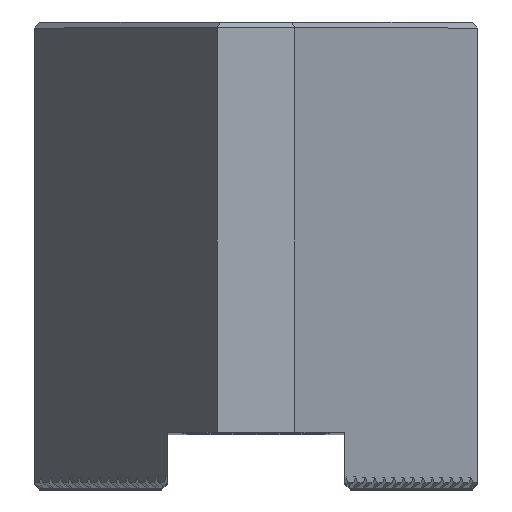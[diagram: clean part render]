
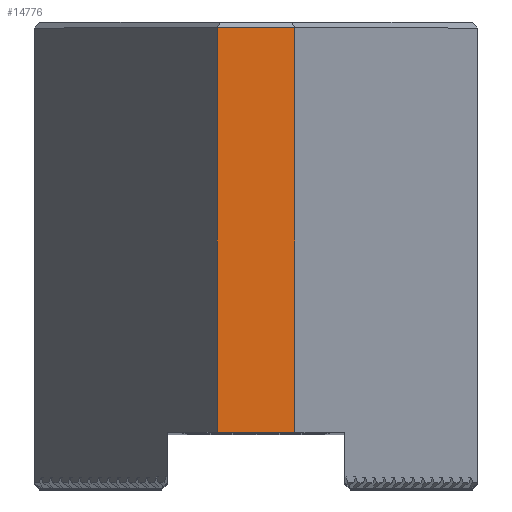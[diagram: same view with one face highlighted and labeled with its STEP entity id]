
A CAD part, top view. The second image highlights one B-rep face of the part: STEP entity #14776.
In plain terms, the highlighted planar face has unit normal (0, 0, 1).
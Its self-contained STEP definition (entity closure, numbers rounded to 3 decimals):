
#722=PLANE('',#15517);
#1430=FACE_OUTER_BOUND('',#2142,.T.);
#2142=EDGE_LOOP('',(#13990,#13991,#13992,#13993));
#2421=LINE('',#19624,#4515);
#4230=LINE('',#23239,#6324);
#4243=LINE('',#23265,#6337);
#4244=LINE('',#23266,#6338);
#4515=VECTOR('',#15832,10.);
#6324=VECTOR('',#19005,10.);
#6337=VECTOR('',#19040,10.);
#6338=VECTOR('',#19041,10.);
#6623=VERTEX_POINT('',#19621);
#6624=VERTEX_POINT('',#19623);
#7748=VERTEX_POINT('',#23237);
#7750=VERTEX_POINT('',#23264);
#8029=EDGE_CURVE('',#6624,#6623,#2421,.T.);
#9838=EDGE_CURVE('',#7748,#6623,#4230,.T.);
#9851=EDGE_CURVE('',#7750,#7748,#4243,.T.);
#9852=EDGE_CURVE('',#7750,#6624,#4244,.T.);
#13990=ORIENTED_EDGE('',*,*,#9838,.F.);
#13991=ORIENTED_EDGE('',*,*,#9851,.F.);
#13992=ORIENTED_EDGE('',*,*,#9852,.T.);
#13993=ORIENTED_EDGE('',*,*,#8029,.T.);
#14776=ADVANCED_FACE('',(#1430),#722,.T.);
#15517=AXIS2_PLACEMENT_3D('',#23263,#19038,#19039);
#15832=DIRECTION('',(0.,1.,0.));
#19005=DIRECTION('',(1.,0.,0.));
#19038=DIRECTION('center_axis',(0.,0.,1.));
#19039=DIRECTION('ref_axis',(1.,0.,0.));
#19040=DIRECTION('',(0.,1.,0.));
#19041=DIRECTION('',(1.,0.,0.));
#19621=CARTESIAN_POINT('',(3.5,41.5,55.));
#19623=CARTESIAN_POINT('',(3.5,5.,55.));
#19624=CARTESIAN_POINT('',(3.5,0.,55.));
#23237=CARTESIAN_POINT('',(-3.5,41.5,55.));
#23239=CARTESIAN_POINT('',(-1.75,41.5,55.));
#23263=CARTESIAN_POINT('Origin',(-3.5,0.,55.));
#23264=CARTESIAN_POINT('',(-3.5,5.,55.));
#23265=CARTESIAN_POINT('',(-3.5,0.,55.));
#23266=CARTESIAN_POINT('',(2.25,5.,55.));
